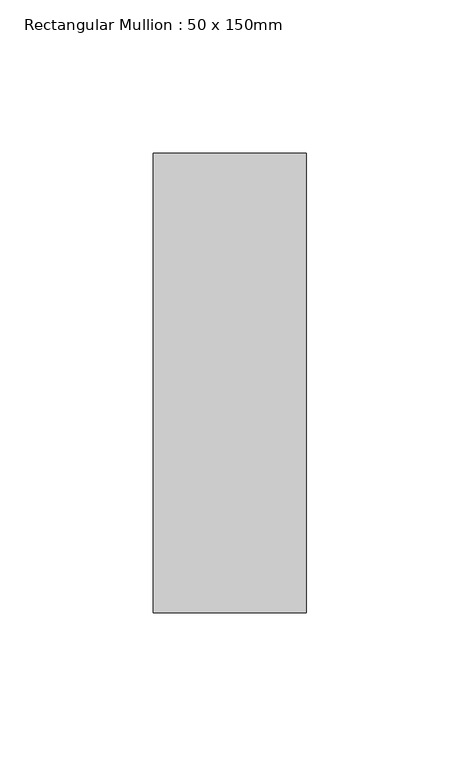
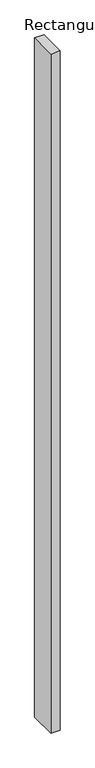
"""IFC4 building model written with IfcOpenShell, lengths in millimetres: member geometry, Rectangular Mullion : 50 x 150mm."""

from ifc_helpers import new_model, si_unit, frame, origin, place, context, project, spatial, polyline, outline, extrude, source, transform, mapped, element, save


def rectangular_mullion_50_x_150mm_4f882940(model_context):
    return source(origin(), model_context, "Body", "SweptSolid", [
        extrude(outline(polyline([(25.0, 75.0), (25.0, -75.0), (-25.0, -75.0), (-25.0, 75.0), (25.0, 75.0)])), frame((0.0, 0.0, -3850.0), z_axis=(0.0, 0.0, 1.0), x_axis=(1.0, 0.0, 0.0)), (0.0, 0.0, 1.0), 3850.0),
    ])


if __name__ == "__main__":
    model = new_model("IFC4")
    model_context = context("Model", 3, world=origin())
    ifc_project = project(units=[si_unit("LENGTHUNIT", "METRE", prefix="MILLI")], contexts=[model_context])
    site = spatial("IfcSite", under=ifc_project)
    building = spatial("IfcBuilding", under=site)
    placement = place(None, origin())
    rectangular_mullion_50_x_150mm_shape = rectangular_mullion_50_x_150mm_4f882940(model_context)
    element("IfcMember", 1, ObjectType="Rectangular Mullion : 50 x 150mm", at=placement, inside=building, context=model_context, shape_type="MappedRepresentation", body=[
        mapped(rectangular_mullion_50_x_150mm_shape, transform((0.0, 0.0, 0.0), x_axis=(1.0, 0.0, 0.0), y_axis=(0.0, 1.0, 0.0), z_axis=(0.0, 0.0, 1.0))),
    ])
    save(model, "model.ifc")
